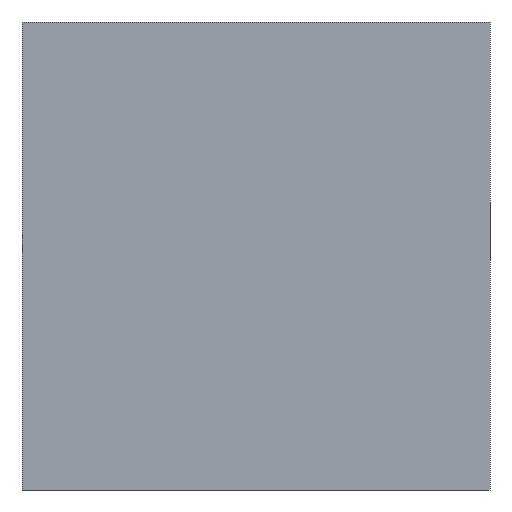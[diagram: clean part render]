
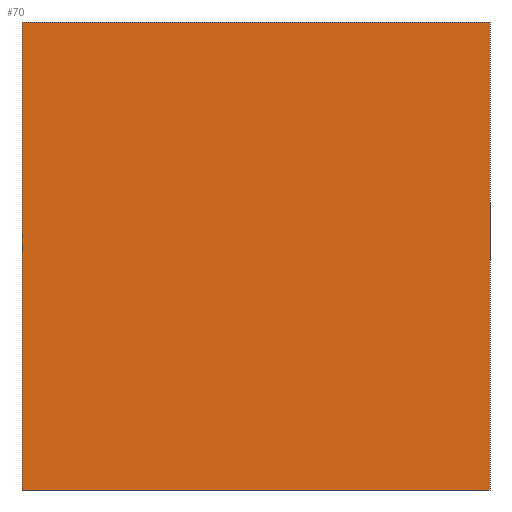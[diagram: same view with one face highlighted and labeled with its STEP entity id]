
A CAD part, left-side view. The second image highlights one B-rep face of the part: STEP entity #70.
In plain terms, the highlighted planar face has unit normal (-1, 0, 0).
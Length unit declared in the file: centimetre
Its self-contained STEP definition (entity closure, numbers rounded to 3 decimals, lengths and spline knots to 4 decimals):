
#48 = VECTOR ( 'NONE', #308, 100. ) ;
#69 = LINE ( 'NONE', #188, #48 ) ;
#70 = ADVANCED_FACE ( 'NONE', ( #670 ), #274, .F. ) ;
#86 = VECTOR ( 'NONE', #333, 100. ) ;
#98 = DIRECTION ( 'NONE',  ( 0., 0., -1. ) ) ;
#100 = DIRECTION ( 'NONE',  ( 0., 0., -1. ) ) ;
#101 = CARTESIAN_POINT ( 'NONE',  ( 0., 1000., 1000. ) ) ;
#162 = DIRECTION ( 'NONE',  ( 0., -1., 0. ) ) ;
#172 = VECTOR ( 'NONE', #100, 100. ) ;
#188 = CARTESIAN_POINT ( 'NONE',  ( 0., 1000., 0. ) ) ;
#221 = EDGE_CURVE ( 'NONE', #747, #503, #69, .T. ) ;
#235 = CARTESIAN_POINT ( 'NONE',  ( 0., 1000., 1000. ) ) ;
#274 = PLANE ( 'NONE',  #736 ) ;
#301 = CARTESIAN_POINT ( 'NONE',  ( 0., 0., 1000. ) ) ;
#306 = EDGE_CURVE ( 'NONE', #449, #747, #658, .T. ) ;
#308 = DIRECTION ( 'NONE',  ( 0., -1., 0. ) ) ;
#319 = CARTESIAN_POINT ( 'NONE',  ( 0., 0., 1000. ) ) ;
#320 = EDGE_LOOP ( 'NONE', ( #413, #416, #482, #688 ) ) ;
#333 = DIRECTION ( 'NONE',  ( 0., 0., -1. ) ) ;
#337 = CARTESIAN_POINT ( 'NONE',  ( 0., 0., 0. ) ) ;
#388 = DIRECTION ( 'NONE',  ( 1., 0., 0. ) ) ;
#413 = ORIENTED_EDGE ( 'NONE', *, *, #221, .T. ) ;
#416 = ORIENTED_EDGE ( 'NONE', *, *, #748, .F. ) ;
#422 = VECTOR ( 'NONE', #162, 100. ) ;
#449 = VERTEX_POINT ( 'NONE', #235 ) ;
#482 = ORIENTED_EDGE ( 'NONE', *, *, #485, .F. ) ;
#485 = EDGE_CURVE ( 'NONE', #449, #651, #676, .T. ) ;
#489 = CARTESIAN_POINT ( 'NONE',  ( 0., 1000., 0. ) ) ;
#492 = CARTESIAN_POINT ( 'NONE',  ( 0., 1000., 1000. ) ) ;
#503 = VERTEX_POINT ( 'NONE', #337 ) ;
#507 = CARTESIAN_POINT ( 'NONE',  ( 0., 1000., 1000. ) ) ;
#651 = VERTEX_POINT ( 'NONE', #301 ) ;
#658 = LINE ( 'NONE', #101, #86 ) ;
#670 = FACE_OUTER_BOUND ( 'NONE', #320, .T. ) ;
#676 = LINE ( 'NONE', #507, #422 ) ;
#688 = ORIENTED_EDGE ( 'NONE', *, *, #306, .T. ) ;
#723 = LINE ( 'NONE', #319, #172 ) ;
#736 = AXIS2_PLACEMENT_3D ( 'NONE', #492, #388, #98 ) ;
#747 = VERTEX_POINT ( 'NONE', #489 ) ;
#748 = EDGE_CURVE ( 'NONE', #651, #503, #723, .T. ) ;
